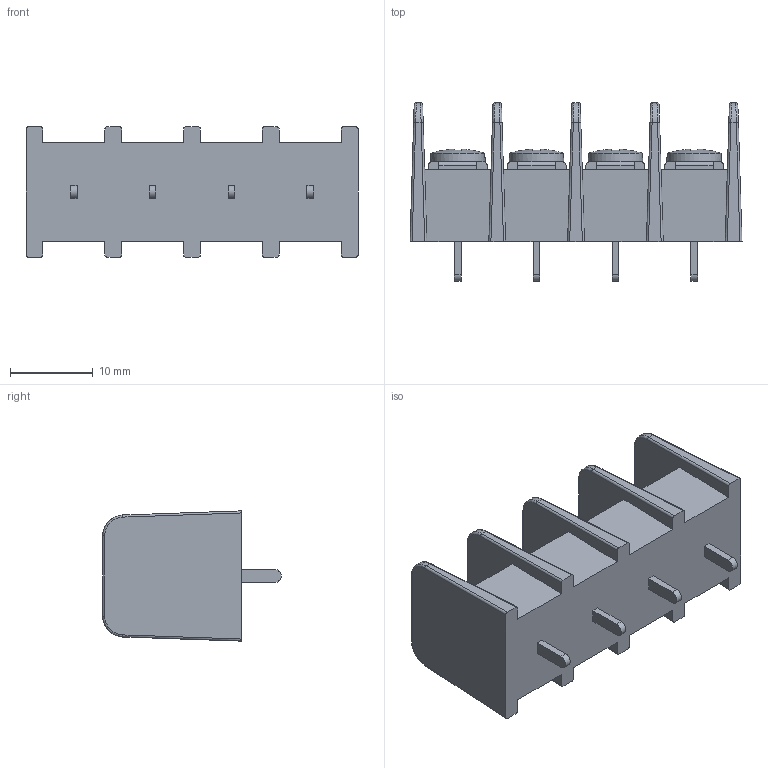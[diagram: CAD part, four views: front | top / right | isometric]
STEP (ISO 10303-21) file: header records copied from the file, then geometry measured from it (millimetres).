
FILE_DESCRIPTION((''),'2;1');
FILE_NAME('387206304','2009-04-02T',('pcbdesigner.ru'),('www.pcbdesigner.ru'),'PRO/ENGINEER BY PARAMETRIC TECHNOLOGY CORPORATION, 2003451','PRO/ENGINEER BY PARAMETRIC TECHNOLOGY CORPORATION, 2003451','');
FILE_SCHEMA(('CONFIG_CONTROL_DESIGN'));
Length unit declared in the file: inch
Products named in the file (1): 387206304
Bounding box: 40.13 x 21.59 x 15.75 mm (x, y, z)
Volume: 5462.6 mm3; surface area: 3905.7 mm2
Topology: 1 solids, 5 shells, 322 faces, 848 edges, 552 vertices
Faces by surface type: plane 202, cylinder 92, bspline 20, sphere 8
Entity records: 11533 total; most frequent: CARTESIAN_POINT 3607, ORIENTED_EDGE 1680, DIRECTION 1594, EDGE_CURVE 840, VECTOR 556, LINE 556, VERTEX_POINT 536, AXIS2_PLACEMENT_3D 519
